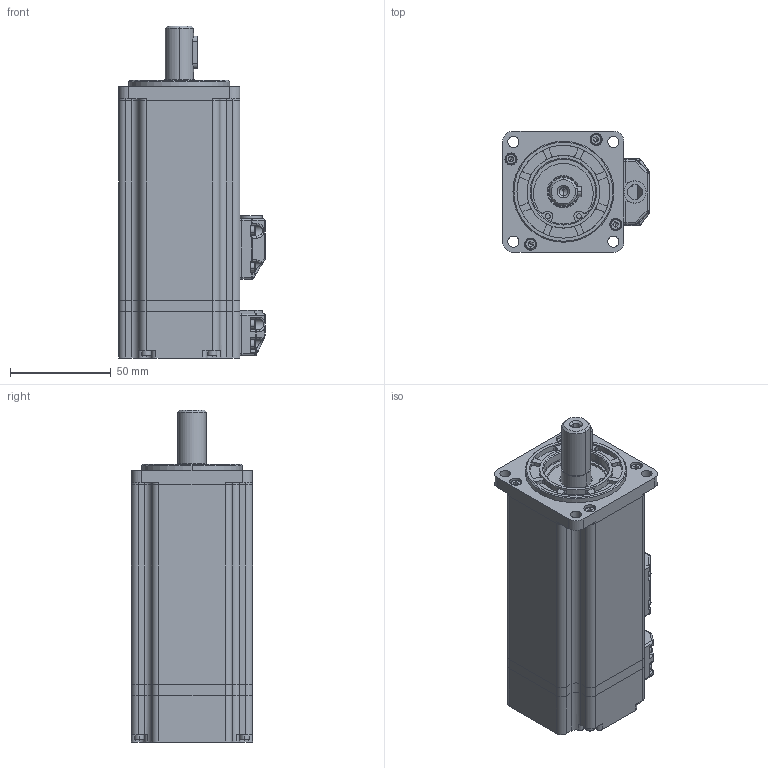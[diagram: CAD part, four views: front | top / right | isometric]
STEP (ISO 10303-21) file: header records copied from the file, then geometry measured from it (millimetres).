
FILE_DESCRIPTION (( 'STEP AP203' ), '1' );
FILE_NAME ('淕儂蚾饜.STEP', '2021-03-12T05:49:23', ( 'admin' ), ( '' ), 'SwSTEP 2.0', 'SolidWorks 2016', '' );
FILE_SCHEMA (( 'CONFIG_CONTROL_DESIGN' ));
Products named in the file (1): 淕儂蚾饜
Bounding box: 72.5 x 60 x 164.5 mm (x, y, z)
Volume: 173902 mm3; surface area: 112814.5 mm2
Topology: 31 solids, 31 shells, 1620 faces, 4323 edges, 2706 vertices
Faces by surface type: cylinder 684, plane 600, cone 148, torus 94, sphere 70, bspline 24
Entity records: 53464 total; most frequent: CARTESIAN_POINT 13126, DIRECTION 8803, ORIENTED_EDGE 8286, EDGE_CURVE 4143, AXIS2_PLACEMENT_3D 3435, VERTEX_POINT 2642, VECTOR 1933, LINE 1933
